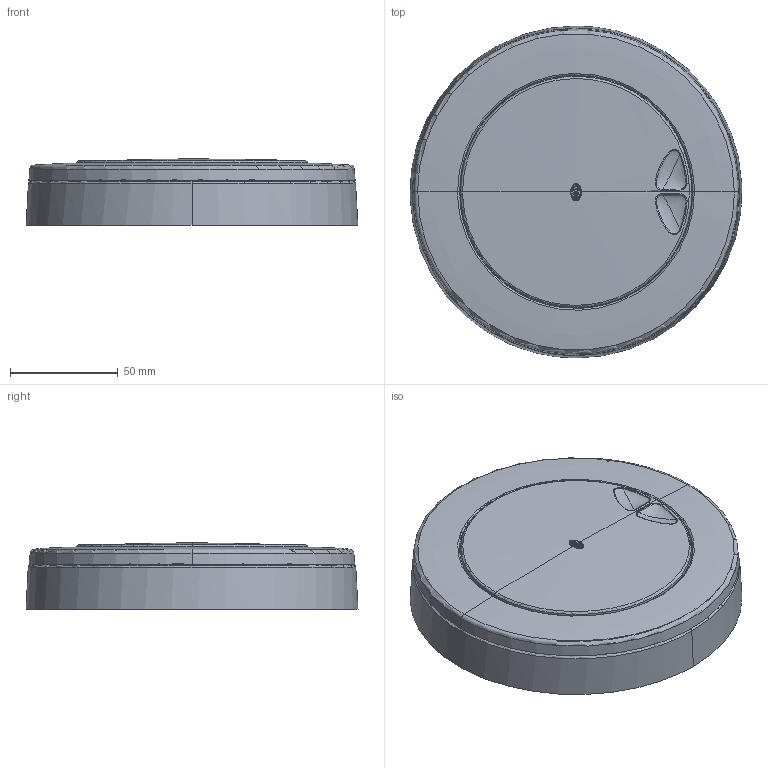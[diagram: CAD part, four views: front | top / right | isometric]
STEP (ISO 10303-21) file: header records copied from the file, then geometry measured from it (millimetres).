
FILE_DESCRIPTION(('CATIA V5 STEP Exchange','CAx-IF Rec.Pracs.--- Model Styling and Organization---1.5--- 2016-08-15','CAx-IF Rec.Pracs.---Supplemental Geometry---1.0---2011-11-01','CAx-IF Rec.Pracs.---Representation and Presentation of Product Manufacturing Information (PMI)---4.0---2014-10-13','CAx-IF Rec.Pracs.--- Composite Materials ---3.4---2017-06-13','CAx-IF Rec.Pracs.---Tessellated 3D Geometry---1.0---2015-12-17'),'2;1');
FILE_NAME('C:\Users\wallra4\OneDrive - FORVIA\Documents\raymonds documents\customer ddx\website uploads\980.630_xxx\files uploaded to website\980.630-XX_Euroled_Flush_Mount_Simplified_Geometry.stp','2026-01-20T21:39:07+00:00',('none'),('none'),'CATIA Version 5-6 Release 2022 SP3 HF41','CATIA V5 STEP AP242 v2','none');
FILE_SCHEMA(('AP242_MANAGED_MODEL_BASED_3D_ENGINEERING_MIM_LF {1 0 10303 442 3 1 4}'));
Length unit declared in the file: millimetre
Products named in the file (1): 10002743182_D10_001
Bounding box: 154.04 x 154.15 x 31.1 mm (x, y, z)
Volume: 398845 mm3; surface area: 130185.7 mm2
Topology: 4 solids, 4 shells, 1548 faces, 4018 edges, 2385 vertices
Faces by surface type: bspline 486, torus 327, cone 219, plane 217, cylinder 153, sphere 146
Entity records: 79759 total; most frequent: CARTESIAN_POINT 54126, ORIENTED_EDGE 7802, EDGE_CURVE 3901, B_SPLINE_CURVE_WITH_KNOTS 2494, VERTEX_POINT 2385, DIRECTION 2128, EDGE_LOOP 1602, ADVANCED_FACE 1548
